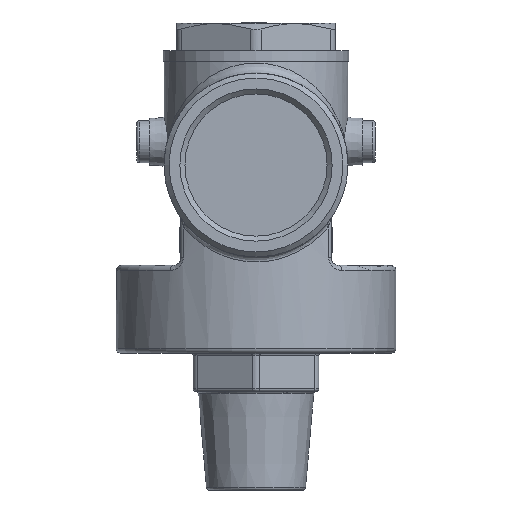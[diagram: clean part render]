
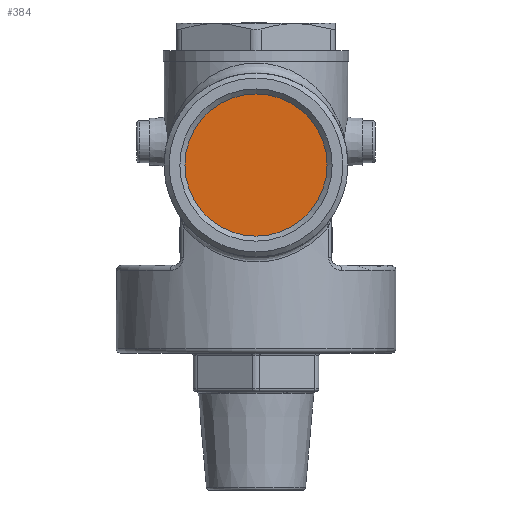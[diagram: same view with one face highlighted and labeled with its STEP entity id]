
A CAD part, front view. The second image highlights one B-rep face of the part: STEP entity #384.
In plain terms, the highlighted planar face has unit normal (0, -1, 0).
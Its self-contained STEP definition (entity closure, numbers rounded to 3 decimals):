
#384=ADVANCED_FACE('',(#3538),#3540,.T.);
#3538=FACE_BOUND('',#3539,.T.);
#3539=EDGE_LOOP('',(#7965));
#3540=PLANE('',#3541);
#3541=AXIS2_PLACEMENT_3D('',#3542,#3543,#3544);
#3542=CARTESIAN_POINT('',(0.,-39.,0.));
#3543=DIRECTION('',(0.,-1.,0.));
#3544=DIRECTION('',(1.,0.,0.));
#7965=ORIENTED_EDGE('',*,*,#9151,.T.);
#9151=EDGE_CURVE('',#10772,#10772,#10773,.T.);
#10772=VERTEX_POINT('',#15710);
#10773=CIRCLE('',#15711,28.328);
#15710=CARTESIAN_POINT('',(28.328,-39.,0.));
#15711=AXIS2_PLACEMENT_3D('',#15712,#15713,#15714);
#15712=CARTESIAN_POINT('',(0.,-39.,0.));
#15713=DIRECTION('',(0.,-1.,0.));
#15714=DIRECTION('',(1.,0.,0.));
